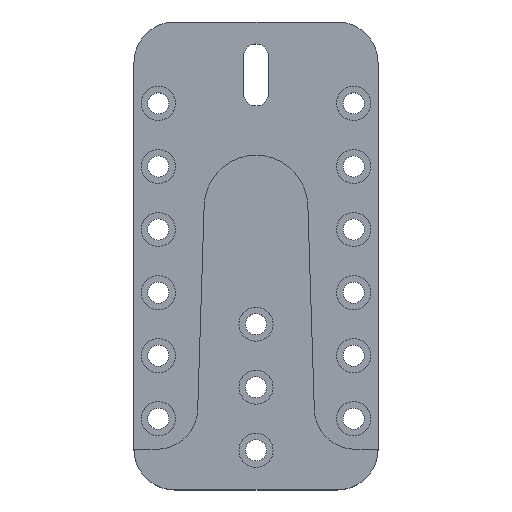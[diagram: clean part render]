
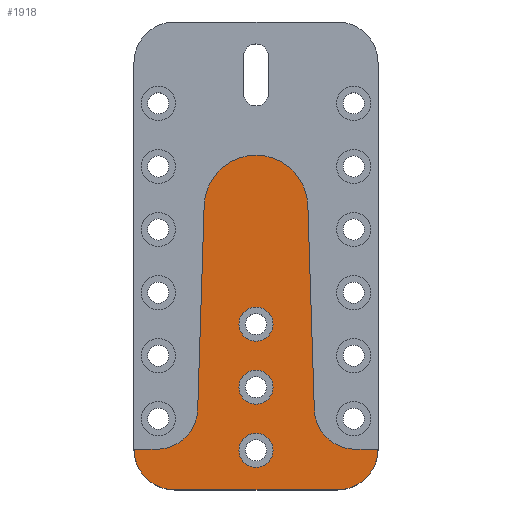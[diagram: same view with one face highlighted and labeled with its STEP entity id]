
A CAD part, top view. The second image highlights one B-rep face of the part: STEP entity #1918.
In plain terms, the highlighted planar face has unit normal (0, 0, 1).
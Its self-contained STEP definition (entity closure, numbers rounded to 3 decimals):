
#12 = CARTESIAN_POINT ( 'NONE',  ( 12.74, 69.906, 12. ) ) ;
#15 = EDGE_CURVE ( 'NONE', #284, #1860, #1398, .T. ) ;
#24 = AXIS2_PLACEMENT_3D ( 'NONE', #1294, #2750, #830 ) ;
#32 = CIRCLE ( 'NONE', #24, 10. ) ;
#41 = DIRECTION ( 'NONE',  ( -1., 0., 0. ) ) ;
#45 = AXIS2_PLACEMENT_3D ( 'NONE', #2470, #320, #2744 ) ;
#89 = CARTESIAN_POINT ( 'NONE',  ( 4.2, 9.75, 12. ) ) ;
#101 = AXIS2_PLACEMENT_3D ( 'NONE', #1229, #1482, #518 ) ;
#103 = CARTESIAN_POINT ( 'NONE',  ( 20., 10., 12. ) ) ;
#120 = DIRECTION ( 'NONE',  ( 0., 0., 1. ) ) ;
#126 = CARTESIAN_POINT ( 'NONE',  ( -30., 0., 12. ) ) ;
#133 = DIRECTION ( 'NONE',  ( -1., 0., 0. ) ) ;
#156 = VECTOR ( 'NONE', #41, 1000. ) ;
#185 = CIRCLE ( 'NONE', #1325, 10. ) ;
#229 = CARTESIAN_POINT ( 'NONE',  ( 4.2, 40.75, 12. ) ) ;
#251 = ORIENTED_EDGE ( 'NONE', *, *, #2494, .T. ) ;
#262 = FACE_BOUND ( 'NONE', #1673, .T. ) ;
#281 = ORIENTED_EDGE ( 'NONE', *, *, #3098, .F. ) ;
#284 = VERTEX_POINT ( 'NONE', #372 ) ;
#300 = DIRECTION ( 'NONE',  ( -1., 0., 0. ) ) ;
#311 = CARTESIAN_POINT ( 'NONE',  ( 0., 9.75, 12. ) ) ;
#320 = DIRECTION ( 'NONE',  ( 0., 0., 1. ) ) ;
#325 = DIRECTION ( 'NONE',  ( 0., 0., 1. ) ) ;
#350 = CARTESIAN_POINT ( 'NONE',  ( 24.323, 10., 12. ) ) ;
#360 = DIRECTION ( 'NONE',  ( 1., 0., 0. ) ) ;
#372 = CARTESIAN_POINT ( 'NONE',  ( -4.2, 25.25, 12. ) ) ;
#412 = VERTEX_POINT ( 'NONE', #669 ) ;
#441 = AXIS2_PLACEMENT_3D ( 'NONE', #783, #2450, #576 ) ;
#474 = AXIS2_PLACEMENT_3D ( 'NONE', #2737, #2485, #133 ) ;
#518 = DIRECTION ( 'NONE',  ( 1., 0., 0. ) ) ;
#533 = EDGE_CURVE ( 'NONE', #3097, #2907, #2059, .T. ) ;
#544 = VERTEX_POINT ( 'NONE', #1504 ) ;
#576 = DIRECTION ( 'NONE',  ( 1., 0., 0. ) ) ;
#614 = CIRCLE ( 'NONE', #474, 12.747 ) ;
#669 = CARTESIAN_POINT ( 'NONE',  ( 12.74, 69.906, 12. ) ) ;
#672 = LINE ( 'NONE', #2425, #156 ) ;
#677 = DIRECTION ( 'NONE',  ( 0.032, -1., 0. ) ) ;
#685 = DIRECTION ( 'NONE',  ( 1., 0., 0. ) ) ;
#694 = EDGE_CURVE ( 'NONE', #3019, #412, #614, .T. ) ;
#695 = AXIS2_PLACEMENT_3D ( 'NONE', #1741, #325, #360 ) ;
#742 = ORIENTED_EDGE ( 'NONE', *, *, #2061, .T. ) ;
#743 = CIRCLE ( 'NONE', #2580, 4.2 ) ;
#748 = CIRCLE ( 'NONE', #1970, 4.2 ) ;
#759 = PLANE ( 'NONE',  #2337 ) ;
#783 = CARTESIAN_POINT ( 'NONE',  ( -24.323, 20., 12. ) ) ;
#791 = EDGE_CURVE ( 'NONE', #544, #2588, #748, .T. ) ;
#795 = EDGE_CURVE ( 'NONE', #1860, #284, #2809, .T. ) ;
#799 = DIRECTION ( 'NONE',  ( 0., 0., 1. ) ) ;
#802 = VERTEX_POINT ( 'NONE', #350 ) ;
#813 = VERTEX_POINT ( 'NONE', #1038 ) ;
#822 = ORIENTED_EDGE ( 'NONE', *, *, #3062, .F. ) ;
#830 = DIRECTION ( 'NONE',  ( 1., 0., 0. ) ) ;
#915 = DIRECTION ( 'NONE',  ( 0., 0., 1. ) ) ;
#988 = EDGE_CURVE ( 'NONE', #1531, #2401, #3042, .T. ) ;
#1015 = ORIENTED_EDGE ( 'NONE', *, *, #694, .F. ) ;
#1038 = CARTESIAN_POINT ( 'NONE',  ( 30., 10., 12. ) ) ;
#1154 = VERTEX_POINT ( 'NONE', #1365 ) ;
#1176 = EDGE_CURVE ( 'NONE', #802, #813, #1747, .T. ) ;
#1218 = AXIS2_PLACEMENT_3D ( 'NONE', #2429, #2711, #2928 ) ;
#1229 = CARTESIAN_POINT ( 'NONE',  ( 0., 40.75, 12. ) ) ;
#1241 = ORIENTED_EDGE ( 'NONE', *, *, #795, .F. ) ;
#1249 = DIRECTION ( 'NONE',  ( 1., 0., 0. ) ) ;
#1294 = CARTESIAN_POINT ( 'NONE',  ( 24.323, 20., 12. ) ) ;
#1308 = CARTESIAN_POINT ( 'NONE',  ( -4.2, 40.75, 12. ) ) ;
#1325 = AXIS2_PLACEMENT_3D ( 'NONE', #103, #799, #300 ) ;
#1365 = CARTESIAN_POINT ( 'NONE',  ( -14.328, 19.684, 12. ) ) ;
#1384 = LINE ( 'NONE', #2686, #2874 ) ;
#1386 = EDGE_CURVE ( 'NONE', #2907, #3097, #1827, .T. ) ;
#1398 = CIRCLE ( 'NONE', #2632, 4.2 ) ;
#1403 = ORIENTED_EDGE ( 'NONE', *, *, #533, .F. ) ;
#1454 = DIRECTION ( 'NONE',  ( -1., 0., 0. ) ) ;
#1463 = DIRECTION ( 'NONE',  ( 0., 0., 1. ) ) ;
#1482 = DIRECTION ( 'NONE',  ( 0., 0., 1. ) ) ;
#1504 = CARTESIAN_POINT ( 'NONE',  ( -4.2, 9.75, 12. ) ) ;
#1531 = VERTEX_POINT ( 'NONE', #2748 ) ;
#1532 = FACE_BOUND ( 'NONE', #2959, .T. ) ;
#1610 = DIRECTION ( 'NONE',  ( 1., 0., 0. ) ) ;
#1651 = VERTEX_POINT ( 'NONE', #2333 ) ;
#1673 = EDGE_LOOP ( 'NONE', ( #2857, #1403 ) ) ;
#1690 = DIRECTION ( 'NONE',  ( 0.032, 1., 0. ) ) ;
#1741 = CARTESIAN_POINT ( 'NONE',  ( 0., 25.25, 12. ) ) ;
#1745 = EDGE_CURVE ( 'NONE', #412, #1930, #2314, .T. ) ;
#1747 = LINE ( 'NONE', #2771, #1973 ) ;
#1803 = EDGE_CURVE ( 'NONE', #2588, #544, #743, .T. ) ;
#1809 = CARTESIAN_POINT ( 'NONE',  ( -24.323, 10., 12. ) ) ;
#1826 = ORIENTED_EDGE ( 'NONE', *, *, #15, .F. ) ;
#1827 = CIRCLE ( 'NONE', #101, 4.2 ) ;
#1858 = FACE_BOUND ( 'NONE', #2695, .T. ) ;
#1860 = VERTEX_POINT ( 'NONE', #2835 ) ;
#1918 = ADVANCED_FACE ( 'NONE', ( #1532, #1858, #262, #2233 ), #759, .F. ) ;
#1919 = EDGE_CURVE ( 'NONE', #2664, #1651, #672, .T. ) ;
#1930 = VERTEX_POINT ( 'NONE', #2670 ) ;
#1931 = VECTOR ( 'NONE', #677, 1000. ) ;
#1946 = CARTESIAN_POINT ( 'NONE',  ( 0., 25.25, 12. ) ) ;
#1970 = AXIS2_PLACEMENT_3D ( 'NONE', #311, #120, #2200 ) ;
#1973 = VECTOR ( 'NONE', #1610, 1000. ) ;
#2002 = ORIENTED_EDGE ( 'NONE', *, *, #1919, .T. ) ;
#2059 = CIRCLE ( 'NONE', #1218, 4.2 ) ;
#2061 = EDGE_CURVE ( 'NONE', #2401, #813, #185, .T. ) ;
#2094 = CARTESIAN_POINT ( 'NONE',  ( 0., 9.75, 12. ) ) ;
#2155 = ORIENTED_EDGE ( 'NONE', *, *, #1176, .F. ) ;
#2200 = DIRECTION ( 'NONE',  ( 1., 0., 0. ) ) ;
#2233 = FACE_OUTER_BOUND ( 'NONE', #2663, .T. ) ;
#2265 = CIRCLE ( 'NONE', #441, 10. ) ;
#2314 = LINE ( 'NONE', #12, #1931 ) ;
#2333 = CARTESIAN_POINT ( 'NONE',  ( -30., 10., 12. ) ) ;
#2337 = AXIS2_PLACEMENT_3D ( 'NONE', #2888, #2435, #1454 ) ;
#2351 = CIRCLE ( 'NONE', #45, 10. ) ;
#2400 = ORIENTED_EDGE ( 'NONE', *, *, #1803, .F. ) ;
#2401 = VERTEX_POINT ( 'NONE', #2908 ) ;
#2425 = CARTESIAN_POINT ( 'NONE',  ( -24.323, 10., 12. ) ) ;
#2429 = CARTESIAN_POINT ( 'NONE',  ( 0., 40.75, 12. ) ) ;
#2432 = EDGE_CURVE ( 'NONE', #1154, #3019, #1384, .T. ) ;
#2435 = DIRECTION ( 'NONE',  ( 0., 0., -1. ) ) ;
#2450 = DIRECTION ( 'NONE',  ( 0., 0., 1. ) ) ;
#2470 = CARTESIAN_POINT ( 'NONE',  ( -20., 10., 12. ) ) ;
#2485 = DIRECTION ( 'NONE',  ( 0., 0., -1. ) ) ;
#2494 = EDGE_CURVE ( 'NONE', #1651, #1531, #2351, .T. ) ;
#2534 = ORIENTED_EDGE ( 'NONE', *, *, #791, .F. ) ;
#2580 = AXIS2_PLACEMENT_3D ( 'NONE', #2094, #915, #685 ) ;
#2588 = VERTEX_POINT ( 'NONE', #89 ) ;
#2632 = AXIS2_PLACEMENT_3D ( 'NONE', #1946, #1463, #1249 ) ;
#2663 = EDGE_LOOP ( 'NONE', ( #2002, #251, #3010, #742, #2155, #281, #2772, #1015, #2689, #822 ) ) ;
#2664 = VERTEX_POINT ( 'NONE', #1809 ) ;
#2670 = CARTESIAN_POINT ( 'NONE',  ( 14.328, 19.684, 12. ) ) ;
#2686 = CARTESIAN_POINT ( 'NONE',  ( -14.328, 19.684, 12. ) ) ;
#2689 = ORIENTED_EDGE ( 'NONE', *, *, #2432, .F. ) ;
#2693 = CARTESIAN_POINT ( 'NONE',  ( -12.74, 69.906, 12. ) ) ;
#2695 = EDGE_LOOP ( 'NONE', ( #2400, #2534 ) ) ;
#2711 = DIRECTION ( 'NONE',  ( 0., 0., 1. ) ) ;
#2737 = CARTESIAN_POINT ( 'NONE',  ( 0., 69.503, 12. ) ) ;
#2744 = DIRECTION ( 'NONE',  ( -1., 0., 0. ) ) ;
#2748 = CARTESIAN_POINT ( 'NONE',  ( -20., 0., 12. ) ) ;
#2750 = DIRECTION ( 'NONE',  ( 0., 0., 1. ) ) ;
#2751 = DIRECTION ( 'NONE',  ( 1., 0., 0. ) ) ;
#2771 = CARTESIAN_POINT ( 'NONE',  ( 24.323, 10., 12. ) ) ;
#2772 = ORIENTED_EDGE ( 'NONE', *, *, #1745, .F. ) ;
#2809 = CIRCLE ( 'NONE', #695, 4.2 ) ;
#2835 = CARTESIAN_POINT ( 'NONE',  ( 4.2, 25.25, 12. ) ) ;
#2857 = ORIENTED_EDGE ( 'NONE', *, *, #1386, .F. ) ;
#2874 = VECTOR ( 'NONE', #1690, 1000. ) ;
#2877 = VECTOR ( 'NONE', #2751, 1000. ) ;
#2888 = CARTESIAN_POINT ( 'NONE',  ( 0., 0., 12. ) ) ;
#2907 = VERTEX_POINT ( 'NONE', #229 ) ;
#2908 = CARTESIAN_POINT ( 'NONE',  ( 20., 0., 12. ) ) ;
#2928 = DIRECTION ( 'NONE',  ( 1., 0., 0. ) ) ;
#2959 = EDGE_LOOP ( 'NONE', ( #1241, #1826 ) ) ;
#3010 = ORIENTED_EDGE ( 'NONE', *, *, #988, .T. ) ;
#3019 = VERTEX_POINT ( 'NONE', #2693 ) ;
#3042 = LINE ( 'NONE', #126, #2877 ) ;
#3062 = EDGE_CURVE ( 'NONE', #2664, #1154, #2265, .T. ) ;
#3097 = VERTEX_POINT ( 'NONE', #1308 ) ;
#3098 = EDGE_CURVE ( 'NONE', #1930, #802, #32, .T. ) ;
